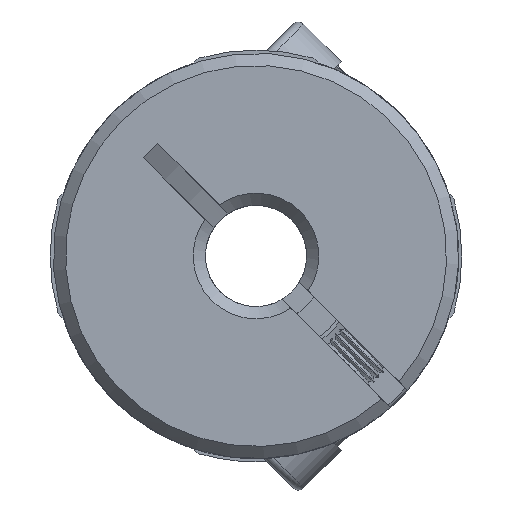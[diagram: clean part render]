
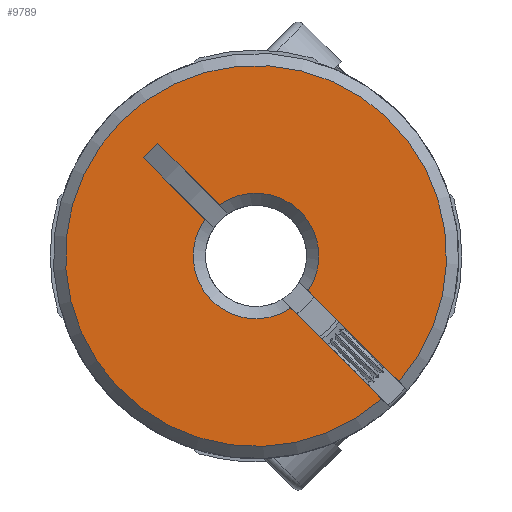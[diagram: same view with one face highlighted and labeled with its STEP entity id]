
A CAD part, front view. The second image highlights one B-rep face of the part: STEP entity #9789.
In plain terms, the highlighted planar face has unit normal (0, -1, 0).
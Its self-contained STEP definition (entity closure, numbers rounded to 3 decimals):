
#47 = LINE ( 'NONE', #10100, #4150 ) ;
#159 = VERTEX_POINT ( 'NONE', #6845 ) ;
#681 = VECTOR ( 'NONE', #8012, 1000. ) ;
#1194 = VERTEX_POINT ( 'NONE', #9946 ) ;
#1426 = CARTESIAN_POINT ( 'NONE',  ( 0., -12.6, 0. ) ) ;
#1799 = EDGE_CURVE ( 'NONE', #5197, #1194, #11475, .T. ) ;
#2326 = EDGE_CURVE ( 'NONE', #3704, #10593, #12564, .T. ) ;
#2403 = CARTESIAN_POINT ( 'NONE',  ( 1.726, -12.6, -2.575 ) ) ;
#3000 = ORIENTED_EDGE ( 'NONE', *, *, #11500, .F. ) ;
#3147 = CARTESIAN_POINT ( 'NONE',  ( 4.95, -12.6, -5.657 ) ) ;
#3299 = DIRECTION ( 'NONE',  ( 0.707, 0., -0.707 ) ) ;
#3376 = VECTOR ( 'NONE', #5145, 1000. ) ;
#3507 = ORIENTED_EDGE ( 'NONE', *, *, #9292, .T. ) ;
#3517 = EDGE_CURVE ( 'NONE', #7995, #11158, #6972, .T. ) ;
#3559 = CARTESIAN_POINT ( 'NONE',  ( 7.058, -12.6, -6.209 ) ) ;
#3704 = VERTEX_POINT ( 'NONE', #2403 ) ;
#3706 = EDGE_CURVE ( 'NONE', #3704, #159, #47, .T. ) ;
#3789 = AXIS2_PLACEMENT_3D ( 'NONE', #5939, #13068, #8190 ) ;
#3839 = CARTESIAN_POINT ( 'NONE',  ( -5.549, -12.6, 4.842 ) ) ;
#4150 = VECTOR ( 'NONE', #11117, 1000. ) ;
#4263 = EDGE_CURVE ( 'NONE', #11158, #1194, #8851, .T. ) ;
#4280 = DIRECTION ( 'NONE',  ( -0.707, 0., 0.707 ) ) ;
#4843 = DIRECTION ( 'NONE',  ( 0.707, 0., -0.707 ) ) ;
#5044 = CIRCLE ( 'NONE', #10087, 9.4 ) ;
#5145 = DIRECTION ( 'NONE',  ( 0.707, 0., -0.707 ) ) ;
#5197 = VERTEX_POINT ( 'NONE', #3559 ) ;
#5507 = CARTESIAN_POINT ( 'NONE',  ( -1.81, -12.6, 2.517 ) ) ;
#5653 = ORIENTED_EDGE ( 'NONE', *, *, #3517, .T. ) ;
#5782 = VERTEX_POINT ( 'NONE', #3839 ) ;
#5899 = DIRECTION ( 'NONE',  ( 0.707, 0., -0.707 ) ) ;
#5939 = CARTESIAN_POINT ( 'NONE',  ( 0., -12.6, 0. ) ) ;
#5943 = CARTESIAN_POINT ( 'NONE',  ( -4.842, -12.6, 5.549 ) ) ;
#6078 = ORIENTED_EDGE ( 'NONE', *, *, #2326, .T. ) ;
#6508 = AXIS2_PLACEMENT_3D ( 'NONE', #6876, #11997, #5899 ) ;
#6845 = CARTESIAN_POINT ( 'NONE',  ( 6.209, -12.6, -7.058 ) ) ;
#6876 = CARTESIAN_POINT ( 'NONE',  ( 342.528, -12.6, 364.579 ) ) ;
#6972 = LINE ( 'NONE', #7882, #7952 ) ;
#7027 = DIRECTION ( 'NONE',  ( 0.707, 0., -0.707 ) ) ;
#7102 = FACE_OUTER_BOUND ( 'NONE', #8112, .T. ) ;
#7882 = CARTESIAN_POINT ( 'NONE',  ( 5.657, -12.6, -4.95 ) ) ;
#7952 = VECTOR ( 'NONE', #4843, 1000. ) ;
#7995 = VERTEX_POINT ( 'NONE', #12227 ) ;
#8012 = DIRECTION ( 'NONE',  ( -0.707, 0., -0.707 ) ) ;
#8045 = ORIENTED_EDGE ( 'NONE', *, *, #1799, .F. ) ;
#8112 = EDGE_LOOP ( 'NONE', ( #5653, #10566, #8045, #3507, #8523, #6078, #3000, #8722 ) ) ;
#8190 = DIRECTION ( 'NONE',  ( 0.707, 0., -0.707 ) ) ;
#8427 = CARTESIAN_POINT ( 'NONE',  ( 2.14, -12.6, -1.292 ) ) ;
#8523 = ORIENTED_EDGE ( 'NONE', *, *, #3706, .F. ) ;
#8722 = ORIENTED_EDGE ( 'NONE', *, *, #11417, .F. ) ;
#8745 = AXIS2_PLACEMENT_3D ( 'NONE', #1426, #9404, #3299 ) ;
#8796 = LINE ( 'NONE', #3147, #3376 ) ;
#8851 = CIRCLE ( 'NONE', #3789, 3.1 ) ;
#9094 = VECTOR ( 'NONE', #4280, 1000. ) ;
#9186 = CARTESIAN_POINT ( 'NONE',  ( 0., -12.6, 0. ) ) ;
#9292 = EDGE_CURVE ( 'NONE', #5197, #159, #5044, .T. ) ;
#9404 = DIRECTION ( 'NONE',  ( 0., 1., 0. ) ) ;
#9595 = CARTESIAN_POINT ( 'NONE',  ( -2.517, -12.6, 1.81 ) ) ;
#9761 = LINE ( 'NONE', #5943, #681 ) ;
#9789 = ADVANCED_FACE ( 'NONE', ( #7102 ), #10056, .F. ) ;
#9946 = CARTESIAN_POINT ( 'NONE',  ( 2.575, -12.6, -1.726 ) ) ;
#10056 = PLANE ( 'NONE',  #6508 ) ;
#10087 = AXIS2_PLACEMENT_3D ( 'NONE', #9186, #11137, #7027 ) ;
#10100 = CARTESIAN_POINT ( 'NONE',  ( 1.292, -12.6, -2.14 ) ) ;
#10566 = ORIENTED_EDGE ( 'NONE', *, *, #4263, .T. ) ;
#10593 = VERTEX_POINT ( 'NONE', #9595 ) ;
#11117 = DIRECTION ( 'NONE',  ( 0.707, 0., -0.707 ) ) ;
#11137 = DIRECTION ( 'NONE',  ( 0., -1., 0. ) ) ;
#11158 = VERTEX_POINT ( 'NONE', #5507 ) ;
#11417 = EDGE_CURVE ( 'NONE', #7995, #5782, #9761, .T. ) ;
#11475 = LINE ( 'NONE', #8427, #9094 ) ;
#11500 = EDGE_CURVE ( 'NONE', #5782, #10593, #8796, .T. ) ;
#11997 = DIRECTION ( 'NONE',  ( 0., 1., 0. ) ) ;
#12227 = CARTESIAN_POINT ( 'NONE',  ( -4.842, -12.6, 5.549 ) ) ;
#12564 = CIRCLE ( 'NONE', #8745, 3.1 ) ;
#13068 = DIRECTION ( 'NONE',  ( 0., 1., 0. ) ) ;
